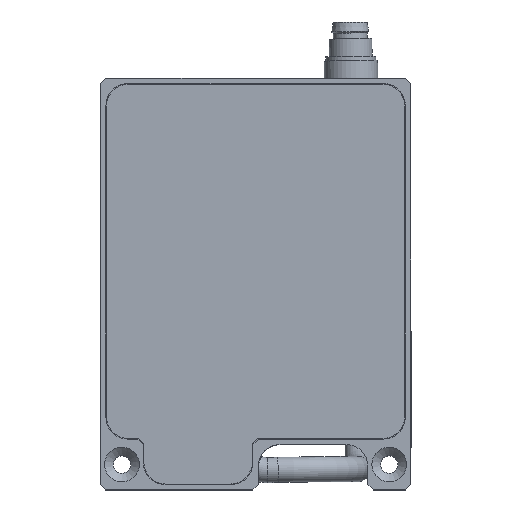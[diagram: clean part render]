
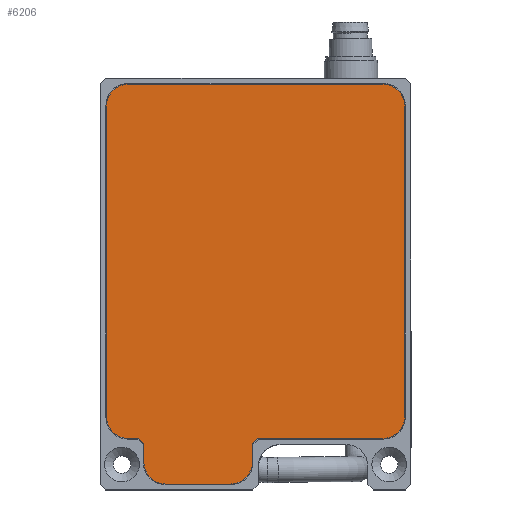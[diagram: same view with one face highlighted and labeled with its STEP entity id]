
A CAD part, top view. The second image highlights one B-rep face of the part: STEP entity #6206.
In plain terms, the highlighted planar face has unit normal (0, 0, 1).
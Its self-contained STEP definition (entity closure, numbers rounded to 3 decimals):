
#209=CIRCLE('',#8986,4.1);
#210=CIRCLE('',#8987,4.1);
#211=CIRCLE('',#8988,4.1);
#212=CIRCLE('',#8989,4.1);
#213=CIRCLE('',#8990,4.1);
#214=CIRCLE('',#8991,4.1);
#406=ORIENTED_EDGE('',*,*,#2201,.F.);
#407=ORIENTED_EDGE('',*,*,#2222,.T.);
#408=ORIENTED_EDGE('',*,*,#2194,.F.);
#409=ORIENTED_EDGE('',*,*,#2223,.T.);
#410=ORIENTED_EDGE('',*,*,#2193,.F.);
#411=ORIENTED_EDGE('',*,*,#2224,.T.);
#412=ORIENTED_EDGE('',*,*,#2221,.F.);
#413=ORIENTED_EDGE('',*,*,#2225,.T.);
#414=ORIENTED_EDGE('',*,*,#2214,.F.);
#415=ORIENTED_EDGE('',*,*,#2226,.T.);
#416=ORIENTED_EDGE('',*,*,#2213,.F.);
#417=ORIENTED_EDGE('',*,*,#2227,.T.);
#418=ORIENTED_EDGE('',*,*,#2209,.F.);
#419=ORIENTED_EDGE('',*,*,#2228,.T.);
#420=ORIENTED_EDGE('',*,*,#2202,.F.);
#421=ORIENTED_EDGE('',*,*,#2229,.T.);
#2193=EDGE_CURVE('',#3101,#3098,#3720,.T.);
#2194=EDGE_CURVE('',#3102,#3103,#3721,.T.);
#2201=EDGE_CURVE('',#3109,#3106,#3728,.T.);
#2202=EDGE_CURVE('',#3110,#3111,#3729,.T.);
#2209=EDGE_CURVE('',#3117,#3114,#3736,.T.);
#2213=EDGE_CURVE('',#3121,#3118,#3740,.T.);
#2214=EDGE_CURVE('',#3122,#3123,#3741,.T.);
#2221=EDGE_CURVE('',#3129,#3126,#3748,.T.);
#2222=EDGE_CURVE('',#3109,#3103,#209,.F.);
#2223=EDGE_CURVE('',#3102,#3098,#210,.F.);
#2224=EDGE_CURVE('',#3101,#3126,#211,.F.);
#2225=EDGE_CURVE('',#3129,#3123,#3749,.F.);
#2226=EDGE_CURVE('',#3122,#3118,#212,.F.);
#2227=EDGE_CURVE('',#3121,#3114,#213,.F.);
#2228=EDGE_CURVE('',#3117,#3111,#3750,.F.);
#2229=EDGE_CURVE('',#3110,#3106,#214,.F.);
#3098=VERTEX_POINT('',#11169);
#3101=VERTEX_POINT('',#11174);
#3102=VERTEX_POINT('',#11178);
#3103=VERTEX_POINT('',#11179);
#3106=VERTEX_POINT('',#11187);
#3109=VERTEX_POINT('',#11192);
#3110=VERTEX_POINT('',#11196);
#3111=VERTEX_POINT('',#11197);
#3114=VERTEX_POINT('',#11205);
#3117=VERTEX_POINT('',#11210);
#3118=VERTEX_POINT('',#11214);
#3121=VERTEX_POINT('',#11219);
#3122=VERTEX_POINT('',#11223);
#3123=VERTEX_POINT('',#11224);
#3126=VERTEX_POINT('',#11232);
#3129=VERTEX_POINT('',#11237);
#3720=LINE('',#11175,#4380);
#3721=LINE('',#11177,#4381);
#3728=LINE('',#11193,#4388);
#3729=LINE('',#11195,#4389);
#3736=LINE('',#11211,#4396);
#3740=LINE('',#11220,#4400);
#3741=LINE('',#11222,#4401);
#3748=LINE('',#11238,#4408);
#3749=LINE('',#11243,#4409);
#3750=LINE('',#11246,#4410);
#4380=VECTOR('',#9493,1000.);
#4381=VECTOR('',#9496,1000.);
#4388=VECTOR('',#9505,1000.);
#4389=VECTOR('',#9508,1000.);
#4396=VECTOR('',#9517,1000.);
#4400=VECTOR('',#9523,1000.);
#4401=VECTOR('',#9526,1000.);
#4408=VECTOR('',#9535,1000.);
#4409=VECTOR('',#9544,1000.);
#4410=VECTOR('',#9549,1000.);
#5045=EDGE_LOOP('',(#406,#407,#408,#409,#410,#411,#412,#413,#414,#415,#416,
#417,#418,#419,#420,#421));
#5498=FACE_BOUND('',#5045,.T.);
#5951=PLANE('',#8985);
#6206=ADVANCED_FACE('',(#5498),#5951,.F.);
#8985=AXIS2_PLACEMENT_3D('',#11239,#9536,#9537);
#8986=AXIS2_PLACEMENT_3D('',#11240,#9538,#9539);
#8987=AXIS2_PLACEMENT_3D('',#11241,#9540,#9541);
#8988=AXIS2_PLACEMENT_3D('',#11242,#9542,#9543);
#8989=AXIS2_PLACEMENT_3D('',#11244,#9545,#9546);
#8990=AXIS2_PLACEMENT_3D('',#11245,#9547,#9548);
#8991=AXIS2_PLACEMENT_3D('',#11247,#9550,#9551);
#9493=DIRECTION('',(0.,1.,0.));
#9496=DIRECTION('',(1.,0.,0.));
#9505=DIRECTION('',(0.,-1.,0.));
#9508=DIRECTION('',(-1.,0.,0.));
#9517=DIRECTION('',(0.,-1.,0.));
#9523=DIRECTION('',(-1.,0.,0.));
#9526=DIRECTION('',(0.,1.,0.));
#9535=DIRECTION('',(-1.,0.,0.));
#9536=DIRECTION('',(0.,0.,-1.));
#9537=DIRECTION('',(-1.,0.,0.));
#9538=DIRECTION('',(0.,0.,-1.));
#9539=DIRECTION('',(-1.,0.,0.));
#9540=DIRECTION('',(0.,0.,-1.));
#9541=DIRECTION('',(-1.,0.,0.));
#9542=DIRECTION('',(0.,0.,-1.));
#9543=DIRECTION('',(-1.,0.,0.));
#9544=DIRECTION('',(-0.707,0.707,0.));
#9545=DIRECTION('',(0.,0.,-1.));
#9546=DIRECTION('',(-1.,0.,0.));
#9547=DIRECTION('',(0.,0.,-1.));
#9548=DIRECTION('',(-1.,0.,0.));
#9549=DIRECTION('',(-0.707,-0.707,0.));
#9550=DIRECTION('',(0.,0.,-1.));
#9551=DIRECTION('',(-1.,0.,0.));
#11169=CARTESIAN_POINT('',(-27.9,23.8,0.03));
#11174=CARTESIAN_POINT('',(-27.9,-34.3,0.03));
#11175=CARTESIAN_POINT('',(-27.9,-38.4,0.03));
#11177=CARTESIAN_POINT('',(-27.9,27.9,0.03));
#11178=CARTESIAN_POINT('',(-23.8,27.9,0.03));
#11179=CARTESIAN_POINT('',(23.8,27.9,0.03));
#11187=CARTESIAN_POINT('',(27.9,-34.3,0.03));
#11192=CARTESIAN_POINT('',(27.9,23.8,0.03));
#11193=CARTESIAN_POINT('',(27.9,27.9,0.03));
#11195=CARTESIAN_POINT('',(-0.6,-38.4,0.03));
#11196=CARTESIAN_POINT('',(23.8,-38.4,0.03));
#11197=CARTESIAN_POINT('',(0.4,-38.4,0.03));
#11205=CARTESIAN_POINT('',(-0.6,-42.8,0.03));
#11210=CARTESIAN_POINT('',(-0.6,-39.4,0.03));
#11211=CARTESIAN_POINT('',(-0.6,-46.9,0.03));
#11214=CARTESIAN_POINT('',(-16.8,-46.9,0.03));
#11219=CARTESIAN_POINT('',(-4.7,-46.9,0.03));
#11220=CARTESIAN_POINT('',(-20.9,-46.9,0.03));
#11222=CARTESIAN_POINT('',(-20.9,-38.4,0.03));
#11223=CARTESIAN_POINT('',(-20.9,-42.8,0.03));
#11224=CARTESIAN_POINT('',(-20.9,-39.4,0.03));
#11232=CARTESIAN_POINT('',(-23.8,-38.4,0.03));
#11237=CARTESIAN_POINT('',(-21.9,-38.4,0.03));
#11238=CARTESIAN_POINT('',(-27.9,-38.4,0.03));
#11239=CARTESIAN_POINT('',(-27.9,-38.4,0.03));
#11240=CARTESIAN_POINT('',(23.8,23.8,0.03));
#11241=CARTESIAN_POINT('',(-23.8,23.8,0.03));
#11242=CARTESIAN_POINT('',(-23.8,-34.3,0.03));
#11243=CARTESIAN_POINT('',(-24.9,-35.4,0.03));
#11244=CARTESIAN_POINT('',(-16.8,-42.8,0.03));
#11245=CARTESIAN_POINT('',(-4.7,-42.8,0.03));
#11246=CARTESIAN_POINT('',(-13.75,-52.55,0.03));
#11247=CARTESIAN_POINT('',(23.8,-34.3,0.03));
